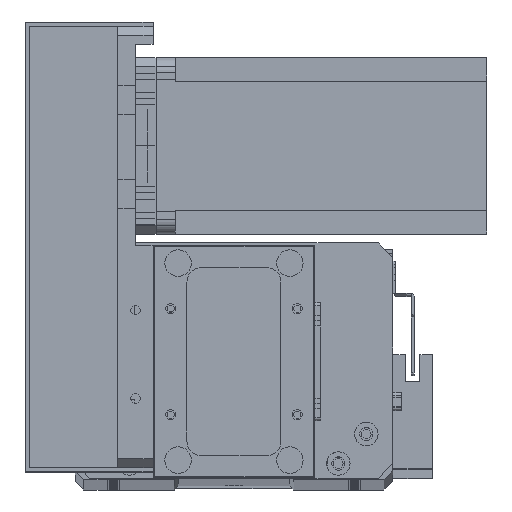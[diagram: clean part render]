
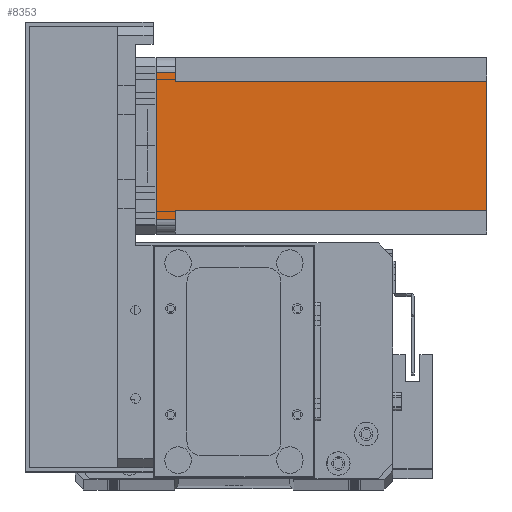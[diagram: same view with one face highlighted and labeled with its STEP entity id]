
A CAD part, top view. The second image highlights one B-rep face of the part: STEP entity #8353.
In plain terms, the highlighted planar face has unit normal (0, 0, 1) as drawn and (0, -1, 0) by its records, which use the part's own axes.
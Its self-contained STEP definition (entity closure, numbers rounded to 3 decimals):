
#1137 = CARTESIAN_POINT ( 'NONE',  ( 5., 0., 0. ) ) ;
#1286 = DIRECTION ( 'NONE',  ( 0., 0., -1. ) ) ;
#1291 = CARTESIAN_POINT ( 'NONE',  ( 52., 0., -112.5 ) ) ;
#1399 = EDGE_CURVE ( 'NONE', #28594, #1431, #5327, .T. ) ;
#1431 = VERTEX_POINT ( 'NONE', #13355 ) ;
#1888 = LINE ( 'NONE', #3438, #14898 ) ;
#2451 = CARTESIAN_POINT ( 'NONE',  ( 8., 0., -6.5 ) ) ;
#3438 = CARTESIAN_POINT ( 'NONE',  ( 52., 0., -6.5 ) ) ;
#4560 = ORIENTED_EDGE ( 'NONE', *, *, #8824, .T. ) ;
#4578 = VERTEX_POINT ( 'NONE', #1291 ) ;
#4584 = VERTEX_POINT ( 'NONE', #1137 ) ;
#4892 = ORIENTED_EDGE ( 'NONE', *, *, #1399, .T. ) ;
#4987 = DIRECTION ( 'NONE',  ( 0., 0., 1. ) ) ;
#5072 = VECTOR ( 'NONE', #20216, 1000. ) ;
#5327 = LINE ( 'NONE', #15839, #18266 ) ;
#5664 = EDGE_CURVE ( 'NONE', #6857, #12519, #18076, .T. ) ;
#5999 = LINE ( 'NONE', #30287, #32092 ) ;
#6061 = DIRECTION ( 'NONE',  ( 1., 0., 0. ) ) ;
#6777 = ORIENTED_EDGE ( 'NONE', *, *, #7528, .T. ) ;
#6857 = VERTEX_POINT ( 'NONE', #2451 ) ;
#7528 = EDGE_CURVE ( 'NONE', #20085, #4578, #5999, .T. ) ;
#8099 = CARTESIAN_POINT ( 'NONE',  ( 52., 0., -6.5 ) ) ;
#8353 = ADVANCED_FACE ( 'NONE', ( #16086 ), #26676, .T. ) ;
#8824 = EDGE_CURVE ( 'NONE', #10013, #28594, #1888, .T. ) ;
#8853 = DIRECTION ( 'NONE',  ( 0., -1., 0. ) ) ;
#9825 = LINE ( 'NONE', #28309, #29916 ) ;
#10013 = VERTEX_POINT ( 'NONE', #8099 ) ;
#10173 = DIRECTION ( 'NONE',  ( 1., 0., 0. ) ) ;
#10334 = AXIS2_PLACEMENT_3D ( 'NONE', #24164, #8853, #11554 ) ;
#10376 = LINE ( 'NONE', #32538, #5072 ) ;
#11258 = VECTOR ( 'NONE', #15491, 1000. ) ;
#11554 = DIRECTION ( 'NONE',  ( 0., 0., -1. ) ) ;
#11955 = EDGE_CURVE ( 'NONE', #4584, #12519, #9825, .T. ) ;
#11971 = VECTOR ( 'NONE', #1286, 1000. ) ;
#12519 = VERTEX_POINT ( 'NONE', #23540 ) ;
#13302 = DIRECTION ( 'NONE',  ( 0., 0., -1. ) ) ;
#13355 = CARTESIAN_POINT ( 'NONE',  ( 55., 0., 0. ) ) ;
#13369 = EDGE_CURVE ( 'NONE', #4584, #1431, #10376, .T. ) ;
#14898 = VECTOR ( 'NONE', #6061, 1000. ) ;
#15380 = CARTESIAN_POINT ( 'NONE',  ( 8., 0., -6.5 ) ) ;
#15491 = DIRECTION ( 'NONE',  ( -1., 0., 0. ) ) ;
#15839 = CARTESIAN_POINT ( 'NONE',  ( 55., 0., -112.5 ) ) ;
#16086 = FACE_OUTER_BOUND ( 'NONE', #25999, .T. ) ;
#16414 = ORIENTED_EDGE ( 'NONE', *, *, #28537, .F. ) ;
#18076 = LINE ( 'NONE', #15380, #11258 ) ;
#18266 = VECTOR ( 'NONE', #19367, 1000. ) ;
#18819 = ORIENTED_EDGE ( 'NONE', *, *, #11955, .T. ) ;
#19367 = DIRECTION ( 'NONE',  ( 0., 0., 1. ) ) ;
#19380 = CARTESIAN_POINT ( 'NONE',  ( 52., 0., -112.5 ) ) ;
#20085 = VERTEX_POINT ( 'NONE', #32422 ) ;
#20159 = EDGE_CURVE ( 'NONE', #20085, #6857, #31775, .T. ) ;
#20216 = DIRECTION ( 'NONE',  ( 1., 0., 0. ) ) ;
#20424 = CARTESIAN_POINT ( 'NONE',  ( 8., 0., -112.5 ) ) ;
#23540 = CARTESIAN_POINT ( 'NONE',  ( 5., 0., -6.5 ) ) ;
#24164 = CARTESIAN_POINT ( 'NONE',  ( 0., 0., -112.5 ) ) ;
#24625 = LINE ( 'NONE', #19380, #11971 ) ;
#25999 = EDGE_LOOP ( 'NONE', ( #4560, #4892, #32721, #18819, #32357, #30632, #6777, #16414 ) ) ;
#26676 = PLANE ( 'NONE',  #10334 ) ;
#28309 = CARTESIAN_POINT ( 'NONE',  ( 5., 0., -112.5 ) ) ;
#28537 = EDGE_CURVE ( 'NONE', #10013, #4578, #24625, .T. ) ;
#28594 = VERTEX_POINT ( 'NONE', #31930 ) ;
#29916 = VECTOR ( 'NONE', #13302, 1000. ) ;
#30287 = CARTESIAN_POINT ( 'NONE',  ( 0., 0., -112.5 ) ) ;
#30632 = ORIENTED_EDGE ( 'NONE', *, *, #20159, .F. ) ;
#31000 = VECTOR ( 'NONE', #4987, 1000. ) ;
#31775 = LINE ( 'NONE', #20424, #31000 ) ;
#31930 = CARTESIAN_POINT ( 'NONE',  ( 55., 0., -6.5 ) ) ;
#32092 = VECTOR ( 'NONE', #10173, 1000. ) ;
#32357 = ORIENTED_EDGE ( 'NONE', *, *, #5664, .F. ) ;
#32422 = CARTESIAN_POINT ( 'NONE',  ( 8., 0., -112.5 ) ) ;
#32538 = CARTESIAN_POINT ( 'NONE',  ( 0., 0., 0. ) ) ;
#32721 = ORIENTED_EDGE ( 'NONE', *, *, #13369, .F. ) ;
